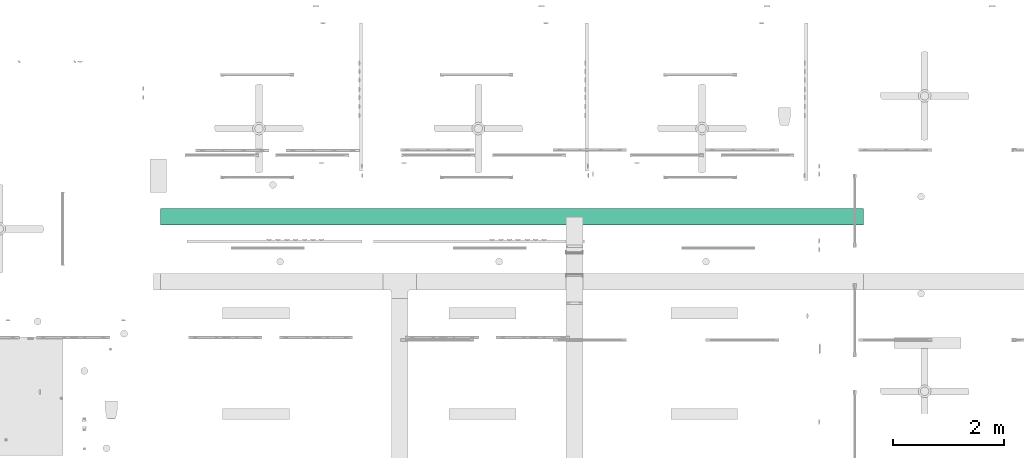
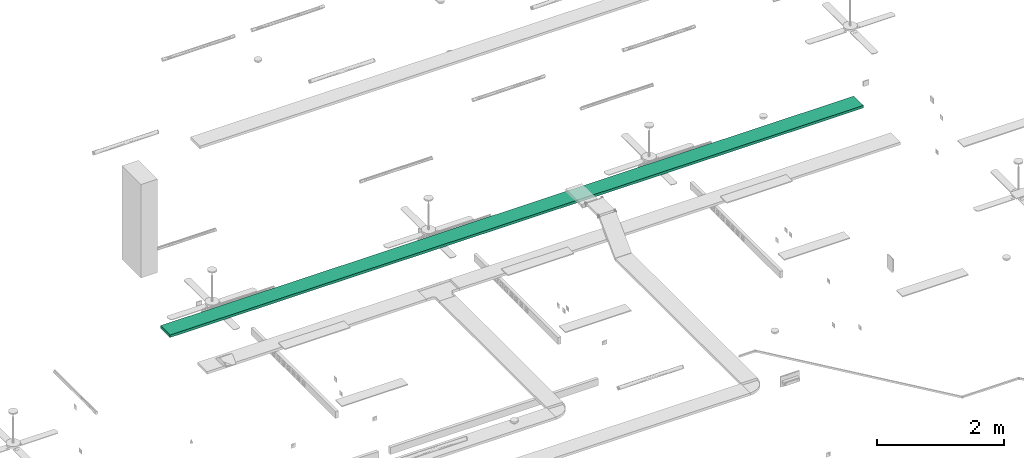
# One storey, part 17 of 153: 1 flow segment.
"""IFC2X3 building model written with IfcOpenShell, lengths in metres."""

from ifc_helpers import new_model, entity, si_unit, converted_unit, derived_unit, direction, frame, origin, origin_2d_with_axis, place, context, subcontext, project, spatial, rectangle, extrude, type_object, element, save


model = new_model("IFC2X3")

# Units and contexts
model_context = context("Model", 3, precision=1e-05, world=origin(), true_north=direction((6.12303176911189e-17, 1.0)))
body_context = subcontext(model_context, "Body", "Model", "MODEL_VIEW")
ifc_project = project(units=[si_unit("LENGTHUNIT", "METRE"), si_unit("AREAUNIT", "SQUARE_METRE"), si_unit("VOLUMEUNIT", "CUBIC_METRE"), converted_unit("PLANEANGLEUNIT", "DEGREE", entity("IfcRatioMeasure", 0.0174532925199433), si_unit("PLANEANGLEUNIT", "RADIAN"), dimensions=[0, 0, 0, 0, 0, 0, 0]), si_unit("MASSUNIT", "GRAM", prefix="KILO"), derived_unit("MASSDENSITYUNIT", [(si_unit("MASSUNIT", "GRAM", prefix="KILO"), 1), (si_unit("LENGTHUNIT", "METRE"), -3)]), si_unit("TIMEUNIT", "SECOND"), si_unit("FREQUENCYUNIT", "HERTZ"), si_unit("THERMODYNAMICTEMPERATUREUNIT", "DEGREE_CELSIUS"), derived_unit("THERMALTRANSMITTANCEUNIT", [(si_unit("MASSUNIT", "GRAM", prefix="KILO"), 1), (si_unit("THERMODYNAMICTEMPERATUREUNIT", "KELVIN"), -1), (si_unit("TIMEUNIT", "SECOND"), -3)]), derived_unit("VOLUMETRICFLOWRATEUNIT", [(si_unit("LENGTHUNIT", "METRE"), 3), (si_unit("TIMEUNIT", "SECOND"), -1)]), si_unit("ELECTRICCURRENTUNIT", "AMPERE"), si_unit("ELECTRICVOLTAGEUNIT", "VOLT"), si_unit("POWERUNIT", "WATT"), si_unit("FORCEUNIT", "NEWTON"), si_unit("ILLUMINANCEUNIT", "LUX"), si_unit("LUMINOUSFLUXUNIT", "LUMEN"), si_unit("LUMINOUSINTENSITYUNIT", "CANDELA"), derived_unit("USERDEFINED", [(si_unit("MASSUNIT", "GRAM", prefix="KILO"), -1), (si_unit("LENGTHUNIT", "METRE"), -2), (si_unit("TIMEUNIT", "SECOND"), 3), (si_unit("LUMINOUSFLUXUNIT", "LUMEN"), 1)]), derived_unit("LINEARVELOCITYUNIT", [(si_unit("LENGTHUNIT", "METRE"), 1), (si_unit("TIMEUNIT", "SECOND"), -1)]), si_unit("PRESSUREUNIT", "PASCAL"), derived_unit("USERDEFINED", [(si_unit("LENGTHUNIT", "METRE"), -2), (si_unit("MASSUNIT", "GRAM", prefix="KILO"), 1), (si_unit("TIMEUNIT", "SECOND"), -2)])], contexts=[model_context])

# Site, building, storey
site_placement = place(None, origin())
site = spatial("IfcSite", under=ifc_project, at=site_placement, Name="Default", CompositionType="ELEMENT")
building_placement = place(site_placement, origin())
building = spatial("IfcBuilding", under=site, at=building_placement, CompositionType="ELEMENT")
storey_placement = place(building_placement, frame((0.0, 0.0, -4.62)))
storey = spatial("IfcBuildingStorey", under=building, at=storey_placement, Name="S02", CompositionType="ELEMENT", Elevation=-4.62)

# Flow segment
cable_carrier_segment_type = type_object("IfcCableCarrierSegmentType", Name="Cable Tray with Fittings:Chemins de câbles en treillis_Chemins de câbles en treillis", PredefinedType="NOTDEFINED")
flow_segment_placement = place(storey_placement, origin())
element("IfcFlowSegment", 1, at=flow_segment_placement, inside=storey, type_object=cable_carrier_segment_type, Name="Cable Tray with Fittings:Chemins de câbles en treillis_Chemins de câbles en treillis", ObjectType="Cable Tray with Fittings:Chemins de câbles en treillis_Chemins de câbles en treillis", context=body_context, shape_type="SweptSolid", body=[
    extrude(rectangle(XDim=0.300000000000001, YDim=12.6279704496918, at=origin_2d_with_axis()), frame((56.0759499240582, -188.700051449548, 3.76400521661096), z_axis=(0.0, 0.0, 1.0), x_axis=(0.0, -1.0, 0.0)), (0.0, 0.0, 1.0), 0.05),
])

save(model, "model.ifc")
